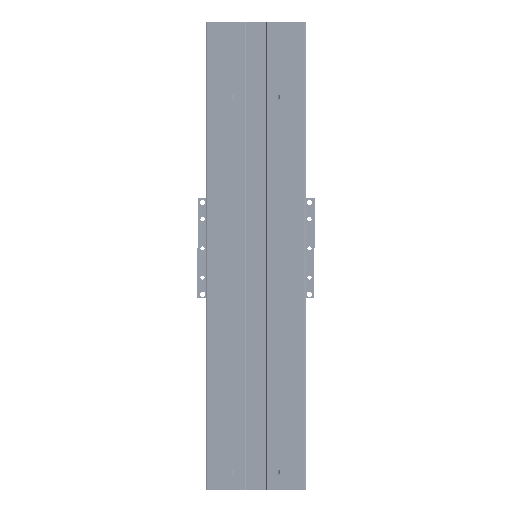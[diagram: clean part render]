
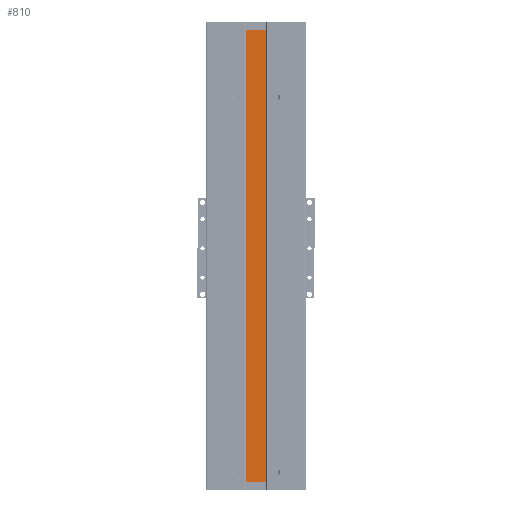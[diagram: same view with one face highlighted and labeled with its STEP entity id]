
A CAD part, front view. The second image highlights one B-rep face of the part: STEP entity #810.
In plain terms, the highlighted planar face has unit normal (0, -1, 0).
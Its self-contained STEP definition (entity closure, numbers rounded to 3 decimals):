
#810 = ADVANCED_FACE ( 'NONE', ( #97921 ), #118930, .F. ) ;
#3004 = CARTESIAN_POINT ( 'NONE',  ( 0.31, -27.09, 540. ) ) ;
#10661 = DIRECTION ( 'NONE',  ( 0., 0., -1. ) ) ;
#12041 = CARTESIAN_POINT ( 'NONE',  ( 0.31, -27.09, 0. ) ) ;
#21852 = VERTEX_POINT ( 'NONE', #118387 ) ;
#24629 = EDGE_CURVE ( 'NONE', #21852, #56352, #106193, .T. ) ;
#32921 = EDGE_LOOP ( 'NONE', ( #43778, #45123, #120247, #87355 ) ) ;
#34472 = CARTESIAN_POINT ( 'NONE',  ( 24.31, -27.09, 540. ) ) ;
#43778 = ORIENTED_EDGE ( 'NONE', *, *, #24629, .T. ) ;
#45123 = ORIENTED_EDGE ( 'NONE', *, *, #58439, .F. ) ;
#46864 = VERTEX_POINT ( 'NONE', #34472 ) ;
#46899 = CARTESIAN_POINT ( 'NONE',  ( 24.31, -27.09, 540. ) ) ;
#47975 = CARTESIAN_POINT ( 'NONE',  ( 0.31, -27.09, 540. ) ) ;
#51174 = LINE ( 'NONE', #46899, #78392 ) ;
#53439 = DIRECTION ( 'NONE',  ( 1., 0., 0. ) ) ;
#55036 = VECTOR ( 'NONE', #53439, 1000. ) ;
#56352 = VERTEX_POINT ( 'NONE', #58995 ) ;
#57122 = DIRECTION ( 'NONE',  ( 0., 0., -1. ) ) ;
#57813 = DIRECTION ( 'NONE',  ( 0., 1., 0. ) ) ;
#58439 = EDGE_CURVE ( 'NONE', #46864, #56352, #51174, .T. ) ;
#58995 = CARTESIAN_POINT ( 'NONE',  ( 24.31, -27.09, 0. ) ) ;
#60510 = VECTOR ( 'NONE', #10661, 1000. ) ;
#64973 = AXIS2_PLACEMENT_3D ( 'NONE', #98028, #57813, #129227 ) ;
#68201 = EDGE_CURVE ( 'NONE', #93873, #21852, #87703, .T. ) ;
#71301 = CARTESIAN_POINT ( 'NONE',  ( 0.31, -27.09, 540. ) ) ;
#78392 = VECTOR ( 'NONE', #57122, 1000. ) ;
#84591 = DIRECTION ( 'NONE',  ( 1., 0., 0. ) ) ;
#87355 = ORIENTED_EDGE ( 'NONE', *, *, #68201, .T. ) ;
#87703 = LINE ( 'NONE', #71301, #60510 ) ;
#93873 = VERTEX_POINT ( 'NONE', #47975 ) ;
#97921 = FACE_OUTER_BOUND ( 'NONE', #32921, .T. ) ;
#98028 = CARTESIAN_POINT ( 'NONE',  ( 0.31, -27.09, 540. ) ) ;
#106193 = LINE ( 'NONE', #12041, #55036 ) ;
#118387 = CARTESIAN_POINT ( 'NONE',  ( 0.31, -27.09, 0. ) ) ;
#118930 = PLANE ( 'NONE',  #64973 ) ;
#120247 = ORIENTED_EDGE ( 'NONE', *, *, #122925, .F. ) ;
#121902 = VECTOR ( 'NONE', #84591, 1000. ) ;
#122925 = EDGE_CURVE ( 'NONE', #93873, #46864, #125120, .T. ) ;
#125120 = LINE ( 'NONE', #3004, #121902 ) ;
#129227 = DIRECTION ( 'NONE',  ( 0., 0., 1. ) ) ;
